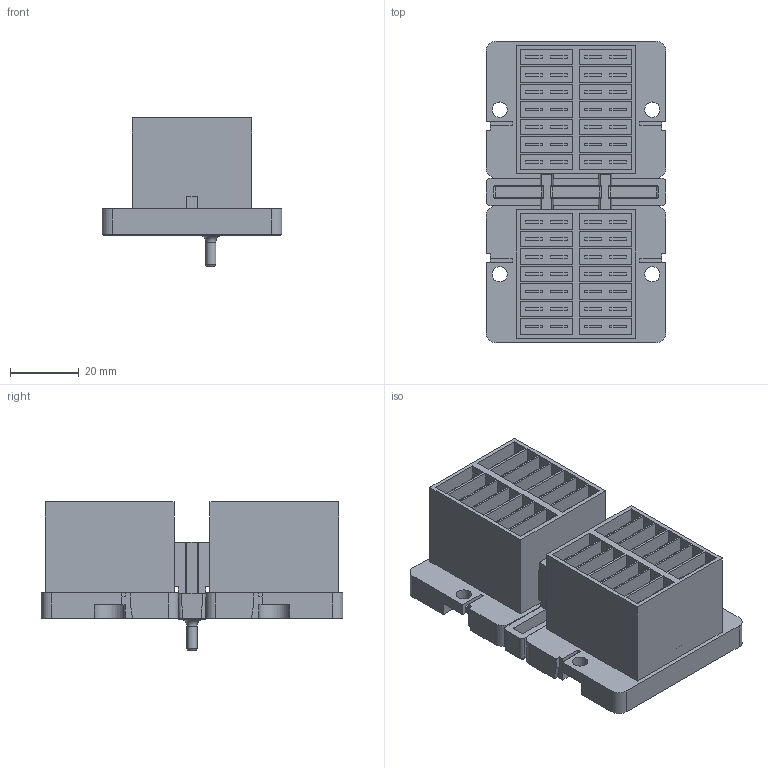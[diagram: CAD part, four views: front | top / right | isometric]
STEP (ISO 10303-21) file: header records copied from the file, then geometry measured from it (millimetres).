
FILE_DESCRIPTION((''),'2;1');
FILE_NAME('I:\TI\Bibliotheek\Inventor\Relais voeten\V89\V89.stp','2012-01-12T11:00:18',('a.vos'),(''),'Autodesk Inventor 2012','Autodesk Inventor 2012','');
FILE_SCHEMA(('AUTOMOTIVE_DESIGN { 1 0 10303 214 1 1 1 1 }'));
Length unit declared in the file: millimetre
Products named in the file (1): V89
Bounding box: 52.5 x 88 x 43.25 mm (x, y, z)
Volume: 76709.1 mm3; surface area: 40723.8 mm2
Topology: 1 solids, 1 shells, 863 faces, 2230 edges, 1458 vertices
Faces by surface type: plane 750, cylinder 66, bspline 33, sphere 12, torus 2
Full cylindrical faces by diameter (mm): 3 x1, 4.5 x4
Entity records: 26969 total; most frequent: CARTESIAN_POINT 5090, ORIENTED_EDGE 4428, DIRECTION 3972, EDGE_CURVE 2214, VECTOR 2002, LINE 2002, VERTEX_POINT 1452, EDGE_LOOP 986
